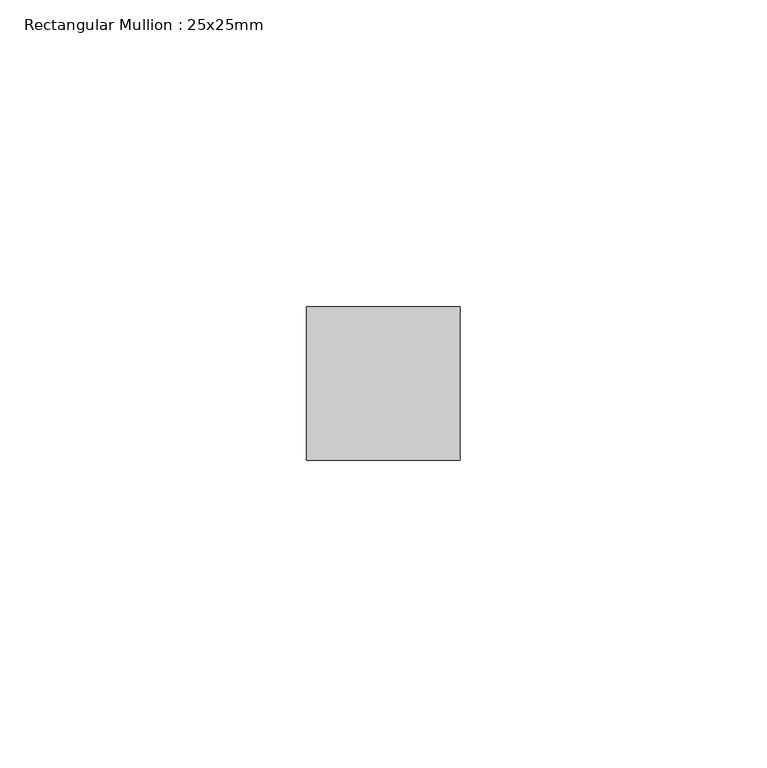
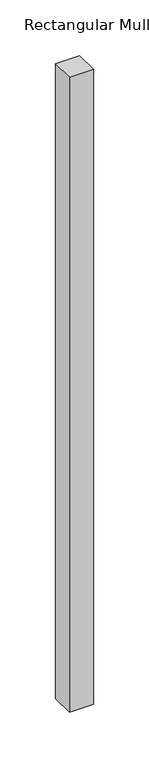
"""IFC4 building model written with IfcOpenShell, lengths in millimetres: member geometry, Rectangular Mullion : 25x25mm."""

from ifc_helpers import new_model, si_unit, frame, origin, place, context, project, spatial, polyline, outline, extrude, source, transform, mapped, element, save


def rectangular_mullion_25x25mm_ba48c8dc(model_context):
    return source(origin(), model_context, "Body", "SweptSolid", [
        extrude(outline(polyline([(0.0, 0.5), (0.0, -24.5), (-25.0, -24.5), (-25.0, 0.5), (0.0, 0.5)])), frame((0.0, 0.0, -696.6666665), z_axis=(0.0, 0.0, 1.0), x_axis=(1.0, 0.0, 0.0)), (0.0, 0.0, 1.0), 696.6666665),
    ])


if __name__ == "__main__":
    model = new_model("IFC4")
    model_context = context("Model", 3, world=origin())
    ifc_project = project(units=[si_unit("LENGTHUNIT", "METRE", prefix="MILLI")], contexts=[model_context])
    site = spatial("IfcSite", under=ifc_project)
    building = spatial("IfcBuilding", under=site)
    placement = place(None, origin())
    rectangular_mullion_25x25mm_shape = rectangular_mullion_25x25mm_ba48c8dc(model_context)
    element("IfcMember", 1, ObjectType="Rectangular Mullion : 25x25mm", at=placement, inside=building, context=model_context, shape_type="MappedRepresentation", body=[
        mapped(rectangular_mullion_25x25mm_shape, transform((0.0, 0.0, 0.0), x_axis=(1.0, 0.0, 0.0), y_axis=(0.0, 1.0, 0.0), z_axis=(0.0, 0.0, 1.0))),
    ])
    save(model, "model.ifc")
